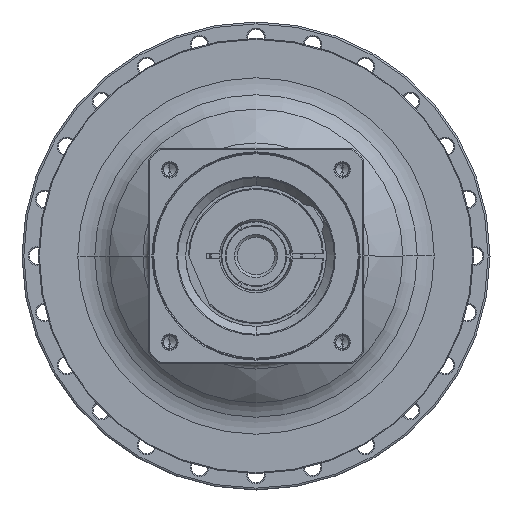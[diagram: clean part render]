
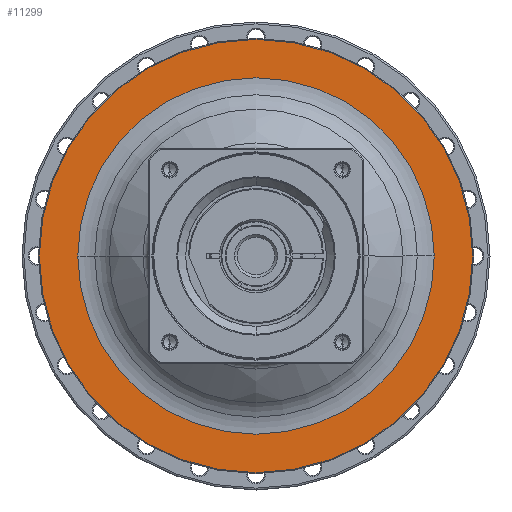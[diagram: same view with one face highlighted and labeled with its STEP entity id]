
A CAD part, left-side view. The second image highlights one B-rep face of the part: STEP entity #11299.
In plain terms, the highlighted planar face has unit normal (-1, 0, 0) as drawn and (1, 0, 0) by its records, which use the part's own axes.
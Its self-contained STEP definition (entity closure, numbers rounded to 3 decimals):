
#10706=CARTESIAN_POINT('',(-27.,0.,0.));
#10707=DIRECTION('',(1.,0.,0.));
#10708=DIRECTION('',(0.,1.,0.));
#10709=AXIS2_PLACEMENT_3D('',#10706,#10707,#10708);
#10711=CARTESIAN_POINT('',(-27.,0.,0.));
#10712=DIRECTION('',(1.,0.,0.));
#10713=DIRECTION('',(0.,-1.,0.));
#10714=AXIS2_PLACEMENT_3D('',#10711,#10712,#10713);
#10716=CARTESIAN_POINT('',(-27.,0.,0.));
#10717=DIRECTION('',(-1.,0.,0.));
#10718=DIRECTION('',(0.,-1.,0.));
#10719=AXIS2_PLACEMENT_3D('',#10716,#10717,#10718);
#10721=CARTESIAN_POINT('',(-27.,0.,0.));
#10722=DIRECTION('',(-1.,0.,0.));
#10723=DIRECTION('',(0.,1.,0.));
#10724=AXIS2_PLACEMENT_3D('',#10721,#10722,#10723);
#10850=CARTESIAN_POINT('',(-27.,-115.5,0.));
#10851=CARTESIAN_POINT('',(-27.,115.5,0.));
#10852=VERTEX_POINT('',#10850);
#10853=VERTEX_POINT('',#10851);
#10918=CARTESIAN_POINT('',(-27.,95.,0.));
#10919=VERTEX_POINT('',#10918);
#10920=CARTESIAN_POINT('',(-27.,-95.,0.));
#10921=VERTEX_POINT('',#10920);
#11284=CARTESIAN_POINT('',(-27.,0.,0.));
#11285=DIRECTION('',(1.,0.,0.));
#11286=DIRECTION('',(0.,-1.,0.));
#11287=AXIS2_PLACEMENT_3D('',#11284,#11285,#11286);
#11288=PLANE('',#11287);
#11289=ORIENTED_EDGE('',*,*,#11225,.T.);
#11290=ORIENTED_EDGE('',*,*,#11240,.T.);
#11291=EDGE_LOOP('',(#11289,#11290));
#11292=FACE_OUTER_BOUND('',#11291,.F.);
#11294=ORIENTED_EDGE('',*,*,#11293,.T.);
#11296=ORIENTED_EDGE('',*,*,#11295,.T.);
#11297=EDGE_LOOP('',(#11294,#11296));
#11298=FACE_BOUND('',#11297,.F.);
#11299=ADVANCED_FACE('',(#11292,#11298),#11288,.T.);
#10710=CIRCLE('',#10709,95.);
#10715=CIRCLE('',#10714,95.);
#10720=CIRCLE('',#10719,115.5);
#10725=CIRCLE('',#10724,115.5);
#11225=EDGE_CURVE('',#10852,#10853,#10720,.T.);
#11240=EDGE_CURVE('',#10853,#10852,#10725,.T.);
#11293=EDGE_CURVE('',#10919,#10921,#10710,.T.);
#11295=EDGE_CURVE('',#10921,#10919,#10715,.T.);
